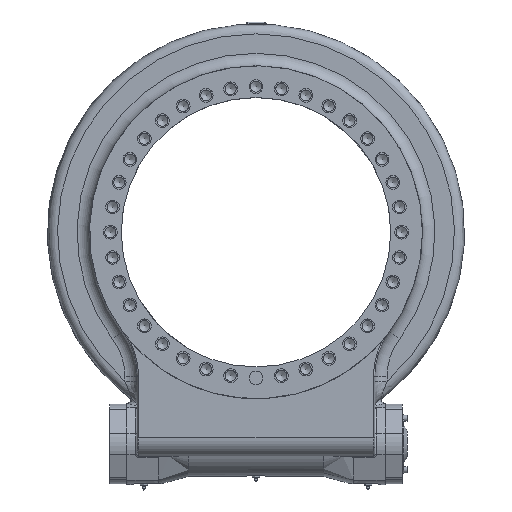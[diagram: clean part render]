
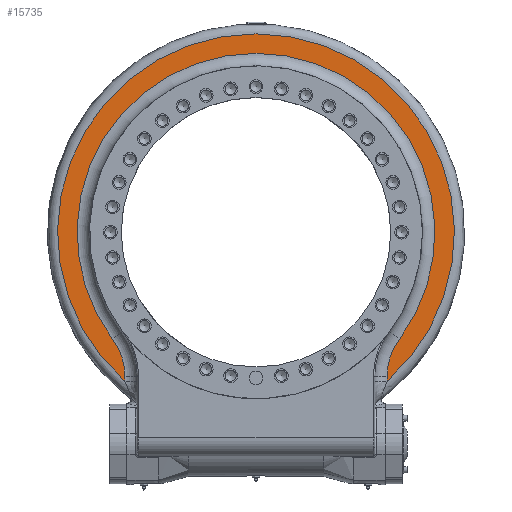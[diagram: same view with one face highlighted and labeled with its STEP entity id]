
A CAD part, top view. The second image highlights one B-rep face of the part: STEP entity #15735.
In plain terms, the highlighted planar face has unit normal (0, 0, 1).
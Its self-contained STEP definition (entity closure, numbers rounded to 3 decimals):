
#288 = VERTEX_POINT ( 'NONE', #19869 ) ;
#772 = CARTESIAN_POINT ( 'NONE',  ( 0., 0., 25.4 ) ) ;
#907 = PLANE ( 'NONE',  #5738 ) ;
#3535 = CARTESIAN_POINT ( 'NONE',  ( 0., 0., 25.4 ) ) ;
#3861 = CARTESIAN_POINT ( 'NONE',  ( -210., -238.797, 25.4 ) ) ;
#4580 = EDGE_CURVE ( 'NONE', #29713, #32744, #15996, .T. ) ;
#5477 = ORIENTED_EDGE ( 'NONE', *, *, #37771, .T. ) ;
#5738 = AXIS2_PLACEMENT_3D ( 'NONE', #772, #24808, #18861 ) ;
#5819 = ORIENTED_EDGE ( 'NONE', *, *, #6110, .T. ) ;
#6057 = EDGE_CURVE ( 'NONE', #288, #29713, #12551, .T. ) ;
#6110 = EDGE_CURVE ( 'NONE', #32744, #38041, #29590, .T. ) ;
#6468 = CIRCLE ( 'NONE', #28772, 100. ) ;
#6733 = EDGE_CURVE ( 'NONE', #22621, #26190, #15936, .T. ) ;
#6878 = AXIS2_PLACEMENT_3D ( 'NONE', #3535, #12410, #23939 ) ;
#7249 = CARTESIAN_POINT ( 'NONE',  ( 310., -231.164, 25.4 ) ) ;
#8332 = DIRECTION ( 'NONE',  ( 0., -1., 0. ) ) ;
#9099 = DIRECTION ( 'NONE',  ( 1., 0., 0. ) ) ;
#10955 = EDGE_CURVE ( 'NONE', #38041, #22621, #6468, .T. ) ;
#11107 = ORIENTED_EDGE ( 'NONE', *, *, #6057, .T. ) ;
#12410 = DIRECTION ( 'NONE',  ( 0., 0., -1. ) ) ;
#12551 = LINE ( 'NONE', #26412, #16211 ) ;
#13560 = DIRECTION ( 'NONE',  ( 0., 0., 1. ) ) ;
#13658 = ORIENTED_EDGE ( 'NONE', *, *, #6733, .T. ) ;
#14387 = DIRECTION ( 'NONE',  ( 0., 1., 0. ) ) ;
#15735 = ADVANCED_FACE ( 'NONE', ( #24013 ), #907, .T. ) ;
#15936 = CIRCLE ( 'NONE', #6878, 286.7 ) ;
#15996 = CIRCLE ( 'NONE', #20675, 318. ) ;
#16211 = VECTOR ( 'NONE', #8332, 1000. ) ;
#16382 = AXIS2_PLACEMENT_3D ( 'NONE', #7249, #13560, #34116 ) ;
#17339 = CARTESIAN_POINT ( 'NONE',  ( -210., 0., 25.4 ) ) ;
#18861 = DIRECTION ( 'NONE',  ( 1., 0., 0. ) ) ;
#19687 = CARTESIAN_POINT ( 'NONE',  ( -310., -231.164, 25.4 ) ) ;
#19869 = CARTESIAN_POINT ( 'NONE',  ( 210., -231.164, 25.4 ) ) ;
#19913 = VECTOR ( 'NONE', #14387, 1000. ) ;
#20675 = AXIS2_PLACEMENT_3D ( 'NONE', #26360, #23405, #29300 ) ;
#22621 = VERTEX_POINT ( 'NONE', #27722 ) ;
#22650 = DIRECTION ( 'NONE',  ( 0., 0., 1. ) ) ;
#23405 = DIRECTION ( 'NONE',  ( 0., 0., 1. ) ) ;
#23939 = DIRECTION ( 'NONE',  ( 1., 0., 0. ) ) ;
#24013 = FACE_OUTER_BOUND ( 'NONE', #28247, .T. ) ;
#24808 = DIRECTION ( 'NONE',  ( 0., 0., 1. ) ) ;
#26190 = VERTEX_POINT ( 'NONE', #33845 ) ;
#26360 = CARTESIAN_POINT ( 'NONE',  ( 0., 0., 25.4 ) ) ;
#26412 = CARTESIAN_POINT ( 'NONE',  ( 210., 0., 25.4 ) ) ;
#27722 = CARTESIAN_POINT ( 'NONE',  ( -229.834, -171.386, 25.4 ) ) ;
#28247 = EDGE_LOOP ( 'NONE', ( #5477, #11107, #32310, #5819, #37787, #13658 ) ) ;
#28772 = AXIS2_PLACEMENT_3D ( 'NONE', #19687, #22650, #9099 ) ;
#29300 = DIRECTION ( 'NONE',  ( 1., 0., 0. ) ) ;
#29590 = LINE ( 'NONE', #17339, #19913 ) ;
#29713 = VERTEX_POINT ( 'NONE', #36413 ) ;
#30540 = CIRCLE ( 'NONE', #16382, 100. ) ;
#32310 = ORIENTED_EDGE ( 'NONE', *, *, #4580, .T. ) ;
#32744 = VERTEX_POINT ( 'NONE', #3861 ) ;
#33845 = CARTESIAN_POINT ( 'NONE',  ( 229.834, -171.386, 25.4 ) ) ;
#34116 = DIRECTION ( 'NONE',  ( 1., 0., 0. ) ) ;
#35265 = CARTESIAN_POINT ( 'NONE',  ( -210., -231.164, 25.4 ) ) ;
#36413 = CARTESIAN_POINT ( 'NONE',  ( 210., -238.797, 25.4 ) ) ;
#37771 = EDGE_CURVE ( 'NONE', #26190, #288, #30540, .T. ) ;
#37787 = ORIENTED_EDGE ( 'NONE', *, *, #10955, .T. ) ;
#38041 = VERTEX_POINT ( 'NONE', #35265 ) ;
